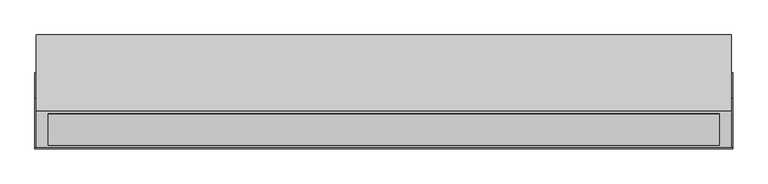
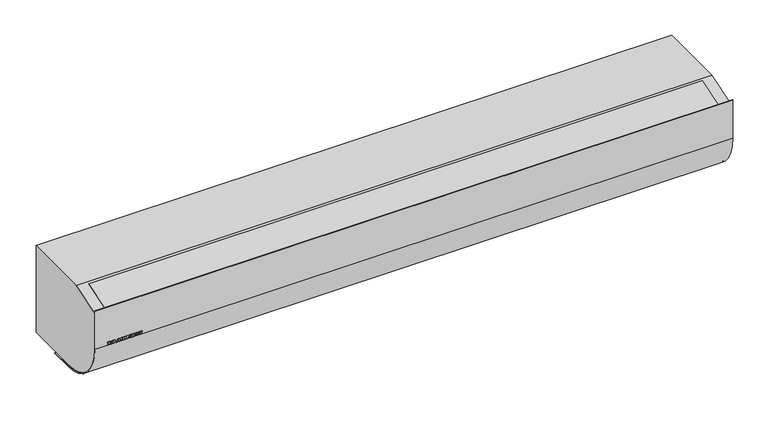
"""IFC4 building model written with IfcOpenShell, lengths in millimetres: proxy geometry, ИЗТТ_Завеса_Электрическая : KVC-D20E18-31."""

from ifc_helpers import new_model, si_unit, point, frame, frame_2d, origin, place, context, project, spatial, polyline, circle_curve, trimmed, segment, composite_curve, outline, extrude, source, transform, mapped, element, save
from ifc_brep_helpers import plane_surface, cylinder_surface, advanced_brep


def mechanical_equipment_44363e42(model_context):
    return source(origin(), model_context, "Body", "SolidModel", [
        extrude(outline(polyline([(162.0, -1006.5196078), (152.0, -1006.5196078), (152.0, -1003.3823529), (153.7647059, -1003.3823529), (155.7745098, -1001.6115196), (152.0, -999.7794118), (152.0, -995.9313725), (158.2775735, -999.4056373), (162.0, -996.127451), (162.0, -1000.3982843), (158.2224265, -1003.3823529), (162.0, -1003.3823529), (162.0, -1006.5196078)])), frame((0.0, -342.0, 0.0), z_axis=(0.0, 1.0, 0.0), x_axis=(0.0, 0.0, 1.0)), (0.0, 0.0, 1.0), 1.0),
        extrude(outline(polyline([(153.5686275, -988.9338235), (152.0, -988.4803922), (152.0, -985.1470588), (162.0, -988.5202206), (162.0, -992.5582108), (152.0, -995.9313725), (152.0, -992.5980392), (153.5686275, -992.1660539), (153.5686275, -988.9338235)]), holes=[polyline([(155.9215686, -989.5281863), (155.9215686, -991.5165441), (159.4540441, -990.5392157), (155.9215686, -989.5281863)])]), frame((0.0, -342.0, 0.0), z_axis=(0.0, 1.0, 0.0), x_axis=(0.0, 0.0, 1.0)), (0.0, 0.0, 1.0), 1.0),
        extrude(outline(polyline([(162.0, -984.1666667), (152.0, -984.1666667), (152.0, -976.3235294), (154.3529412, -976.3235294), (154.3529412, -981.0294118), (162.0, -981.0294118), (162.0, -984.1666667)])), frame((0.0, -342.0, 0.0), z_axis=(0.0, 1.0, 0.0), x_axis=(0.0, 0.0, 1.0)), (0.0, 0.0, 1.0), 1.0),
        extrude(outline(polyline([(153.5686275, -968.9338235), (152.0, -968.4803922), (152.0, -965.1470588), (162.0, -968.5202206), (162.0, -972.5582108), (152.0, -975.9313725), (152.0, -972.5980392), (153.5686275, -972.1660539), (153.5686275, -968.9338235)]), holes=[polyline([(155.9215686, -969.5281863), (155.9215686, -971.5165441), (159.4540441, -970.5392157), (155.9215686, -969.5281863)])]), frame((0.0, -342.0, 0.0), z_axis=(0.0, 1.0, 0.0), x_axis=(0.0, 0.0, 1.0)), (0.0, 0.0, 1.0), 1.0),
        extrude(outline(polyline([(155.3394608, -964.754902), (152.8026961, -963.6488971), (151.8039216, -960.1378676), (152.2297794, -957.7420343), (153.4813113, -956.2637868), (155.28125, -955.7352941), (156.7870711, -956.1305147), (157.9129902, -957.3958333), (158.8106618, -960.2757353), (160.4313725, -960.4074755), (160.1050858, -959.6338848), (159.0588235, -959.2647059), (159.2395833, -956.127451), (161.4883578, -957.3054534), (162.1960784, -960.1807598), (161.8039216, -962.6011029), (160.7285539, -963.9231005), (159.276348, -964.3627451), (157.3492647, -963.4957108), (156.1237745, -960.6219363), (154.8186275, -958.872549), (154.0818015, -959.1865809), (153.7647059, -960.0796569), (154.3958333, -961.2775735), (155.5294118, -961.6176471), (155.3394608, -964.754902)])), frame((0.0, -342.0, 0.0), z_axis=(0.0, 1.0, 0.0), x_axis=(0.0, 0.0, 1.0)), (0.0, 0.0, 1.0), 1.0),
        extrude(outline(polyline([(162.0, -954.1666667), (152.0, -954.1666667), (152.0, -951.0294118), (156.1176471, -951.0294118), (156.1176471, -947.6960784), (152.0, -947.6960784), (152.0, -944.5588235), (162.0, -944.5588235), (162.0, -947.6960784), (158.4705882, -947.6960784), (158.4705882, -951.0294118), (162.0, -951.0294118), (162.0, -954.1666667)])), frame((0.0, -342.0, 0.0), z_axis=(0.0, 1.0, 0.0), x_axis=(0.0, 0.0, 1.0)), (0.0, 0.0, 1.0), 1.0),
        extrude(outline(polyline([(162.0, -942.5980392), (152.0, -942.5980392), (152.0, -939.6568627), (157.4901961, -939.6568627), (152.0, -935.9313725), (152.0, -932.9901961), (162.0, -932.9901961), (162.0, -935.9313725), (156.4730392, -935.9313725), (162.0, -939.6783088), (162.0, -942.5980392)])), frame((0.0, -342.0, 0.0), z_axis=(0.0, 1.0, 0.0), x_axis=(0.0, 0.0, 1.0)), (0.0, 0.0, 1.0), 1.0),
        extrude(outline(polyline([(-927.6960784, -342.0), (-930.8333333, -342.0), (-930.8333333, -341.0), (-927.6960784, -341.0), (-927.6960784, -342.0)])), frame((0.0, 0.0, 152.0), z_axis=(0.0, 0.0, 1.0), x_axis=(1.0, 0.0, 0.0)), (0.0, 0.0, 1.0), 10.0),
        extrude(outline(polyline([(162.0, -925.5392157), (152.0, -925.5392157), (152.0, -922.4019608), (153.7647059, -922.4019608), (155.7745098, -920.6311275), (152.0, -918.7990196), (152.0, -914.9509804), (158.2775735, -918.4252451), (162.0, -915.1470588), (162.0, -919.4178922), (158.2224265, -922.4019608), (162.0, -922.4019608), (162.0, -925.5392157)])), frame((0.0, -342.0, 0.0), z_axis=(0.0, 1.0, 0.0), x_axis=(0.0, 0.0, 1.0)), (0.0, 0.0, 1.0), 1.0),
        extrude(outline(polyline([(156.9938725, -914.3627451), (154.0603554, -913.671875), (152.346201, -911.8688725), (151.8039216, -909.0594363), (152.4304534, -906.2729779), (154.1859681, -904.5618873), (157.0765931, -903.9705882), (160.8495711, -905.3247549), (162.1960784, -909.185049), (160.8250613, -912.9947917), (156.9938725, -914.3627451)]), holes=[polyline([(156.9938725, -911.2254902), (159.1813725, -910.6678922), (159.8431373, -909.1911765), (159.1920956, -907.6685049), (157.1286765, -907.1078431), (154.8048407, -907.645527), (154.1568627, -909.1636029), (154.8186275, -910.6709559), (156.9938725, -911.2254902)])]), frame((0.0, -342.0, 0.0), z_axis=(0.0, 1.0, 0.0), x_axis=(0.0, 0.0, 1.0)), (0.0, 0.0, 1.0), 1.0),
        extrude(outline(polyline([(162.0, -903.1862745), (152.0, -899.4699755), (152.0, -896.1397059), (162.0, -892.4019608), (162.0, -895.7352941), (154.8033088, -897.7941176), (162.0, -899.8560049), (162.0, -903.1862745)])), frame((0.0, -342.0, 0.0), z_axis=(0.0, 1.0, 0.0), x_axis=(0.0, 0.0, 1.0)), (0.0, 0.0, 1.0), 1.0),
        extrude(outline(polyline([(-22.2777778, 10.0), (-22.2777778, 0.0), (-40.5555556, 10.0), (-40.5555556, 0.0), (-58.8333333, 10.0), (-58.8333333, 0.0), (-77.1111111, 10.0), (-77.1111111, 0.0), (-95.3888889, 10.0), (-95.3888889, 0.0), (-113.5833165, 10.5360909), (-4.0, 10.5360909), (-4.0, 0.0), (-22.2777778, 10.0)])), frame((-1007.5, 0.0, 0.0), z_axis=(1.0, 0.0, 0.0), x_axis=(0.0, 1.0, 0.0)), (0.0, 0.0, 1.0), 2015.0),
        advanced_brep(
        [(1043.5, -227.3333333, 304.0), (1043.5, -339.0, 269.0), (1043.5, -339.0, 152.0), (1043.5, -189.0, 2.0), (1043.5, 0.0, 2.0), (1043.5, 0.0, 304.0), (-1043.5, -227.3333333, 304.0), (-1043.5, 0.0, 304.0), (-1043.5, 0.0, 2.0), (-1043.5, -189.0, 2.0), (-1043.5, -339.0, 152.0), (-1043.5, -339.0, 269.0), (1007.5, -4.0, 2.0), (-1007.5, -4.0, 2.0), (-1007.5, -113.6666667, 2.0), (1007.5, -113.6666667, 2.0), (1007.5, -4.0, 10.0), (1007.5, -113.6666667, 10.0), (-1007.5, -113.6666667, 10.0), (-1007.5, -4.0, 10.0)],
        [
            (0, 1),
            (1, 2),
            (2, 3, circle_curve(frame((1043.5, -189.0, 152.0), z_axis=(1.0, 0.0, 0.0), x_axis=(0.0, 1.0, 0.0)), 150.0)),
            (3, 4),
            (4, 5),
            (5, 0),
            (6, 7),
            (7, 8),
            (8, 9),
            (9, 10, circle_curve(frame((-1043.5, -189.0, 152.0), z_axis=(-1.0, 0.0, 0.0), x_axis=(0.0, 1.0, 0.0)), 150.0)),
            (10, 11),
            (11, 6),
            (1, 11),
            (10, 2),
            (4, 8),
            (7, 5),
            (6, 0),
            (9, 3),
            (12, 13),
            (13, 14),
            (14, 15),
            (15, 12),
            (16, 17),
            (17, 18),
            (18, 19),
            (19, 16),
            (19, 13),
            (12, 16),
            (18, 14),
            (17, 15),
        ],
        [
            plane_surface(frame((1043.5, -227.3333333, 304.0), z_axis=(1.0, 0.0, 0.0), x_axis=(0.0, -0.9542262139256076, -0.2990858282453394))),
            plane_surface(frame((-1043.5, -227.3333333, 304.0), z_axis=(-1.0, 0.0, 0.0), x_axis=(0.0, 0.9542262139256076, 0.2990858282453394))),
            plane_surface(frame((1043.5, -339.0, 269.0), z_axis=(0.0, -1.0, 0.0), x_axis=(-1.0, 0.0, 0.0))),
            plane_surface(frame((1043.5, 0.0, 2.0), z_axis=(0.0, 1.0, 0.0), x_axis=(-1.0, 0.0, 0.0))),
            plane_surface(frame((1043.5, 0.0, 304.0), z_axis=(0.0, 0.0, 1.0), x_axis=(-1.0, 0.0, 0.0))),
            cylinder_surface(frame((-1043.5, -189.0, 152.0), z_axis=(1.0, 0.0, 0.0), x_axis=(0.0, 1.0, 0.0)), 150.0),
            plane_surface(frame((1043.5, -189.0, 2.0), z_axis=(0.0, 0.0, -1.0), x_axis=(-1.0, 0.0, 0.0))),
            plane_surface(frame((1043.5, -227.3333333, 304.0), z_axis=(0.0, -0.2990858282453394, 0.9542262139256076), x_axis=(-1.0, 0.0, 0.0))),
            plane_surface(frame((-1007.5, -4.0, 10.0), z_axis=(0.0, 0.0, -1.0), x_axis=(-1.0, 0.0, 0.0))),
            plane_surface(frame((1007.5, -4.0, 10.0), z_axis=(0.0, -1.0, 0.0), x_axis=(0.0, 0.0, -1.0))),
            plane_surface(frame((-1007.5, -4.0, 10.0), z_axis=(1.0, 0.0, 0.0), x_axis=(0.0, 0.0, -1.0))),
            plane_surface(frame((-1007.5, -113.6666667, 10.0), z_axis=(0.0, 1.0, 0.0), x_axis=(0.0, 0.0, -1.0))),
            plane_surface(frame((1007.5, -113.6666667, 10.0), z_axis=(-1.0, 0.0, 0.0), x_axis=(0.0, 0.0, -1.0))),
        ],
        [
            (0, [[1, 2, 3, 4, 5, 6]]),
            (1, [[7, 8, 9, 10, 11, 12]]),
            (2, [[-2, 13, -11, 14]]),
            (3, [[-5, 15, -8, 16]]),
            (4, [[-6, -16, -7, 17]]),
            (5, [[-3, -14, -10, 18]]),
            (6, [[-4, -18, -9, -15], [19, 20, 21, 22]]),
            (7, [[-1, -17, -12, -13]]),
            (8, [[23, 24, 25, 26]]),
            (9, [[-26, 27, -19, 28]]),
            (10, [[-25, 29, -20, -27]]),
            (11, [[-24, 30, -21, -29]]),
            (12, [[-23, -28, -22, -30]]),
        ],
    ),
        extrude(outline(polyline([(0.0, -99.1190169), (0.0, 0.0), (2015.0, 0.0), (2015.0, -99.1190169), (0.0, -99.1190169)])), frame((1007.5, -330.390912, 270.9360668), z_axis=(0.0, -0.2990858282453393, 0.9542262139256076), x_axis=(-1.0, 0.0, 0.0)), (0.0, 0.0, 1.0), 1.4548211),
        extrude(outline(composite_curve([segment(polyline([(-341.0, 284.0), (-339.0, 284.0), (-339.0, 152.0)]), True, "CONTINUOUS"), segment(trimmed(circle_curve(frame_2d((-189.0, 152.0)), 150.0), [point((-339.0, 152.0))], [point((-189.0, 2.0))], True, "CARTESIAN"), True, "CONTINUOUS"), segment(polyline([(-189.0, 2.0), (-113.6666667, 2.0), (-113.6666667, 0.0), (-189.0, 0.0)]), True, "CONTINUOUS"), segment(trimmed(circle_curve(frame_2d((-189.0, 152.0)), 152.0), [point((-189.0, 0.0))], [point((-341.0, 152.0))], False, "CARTESIAN"), True, "CONTINUOUS"), segment(polyline([(-341.0, 152.0), (-341.0, 284.0)]), True, "CONTINUOUS")], self_intersect=False)), frame((-1047.5, 0.0, 0.0), z_axis=(1.0, 0.0, 0.0), x_axis=(0.0, 1.0, 0.0)), (0.0, 0.0, 1.0), 2095.0),
    ])


if __name__ == "__main__":
    model = new_model("IFC4")
    model_context = context("Model", 3, world=origin())
    ifc_project = project(units=[si_unit("LENGTHUNIT", "METRE", prefix="MILLI")], contexts=[model_context])
    site = spatial("IfcSite", under=ifc_project)
    building = spatial("IfcBuilding", under=site)
    placement = place(None, origin())
    mechanical_equipment_shape = mechanical_equipment_44363e42(model_context)
    element("IfcBuildingElementProxy", 1, Name="ИЗТТ_Завеса_Электрическая : KVC-D20E18-31", ObjectType="ИЗТТ_Завеса_Электрическая : KVC-D20E18-31", at=placement, inside=building, context=model_context, shape_type="MappedRepresentation", body=[
        mapped(mechanical_equipment_shape, transform((0.0, 0.0, 0.0), x_axis=(1.0, 0.0, 0.0), y_axis=(0.0, 1.0, 0.0), z_axis=(0.0, 0.0, 1.0))),
    ])
    save(model, "model.ifc")
